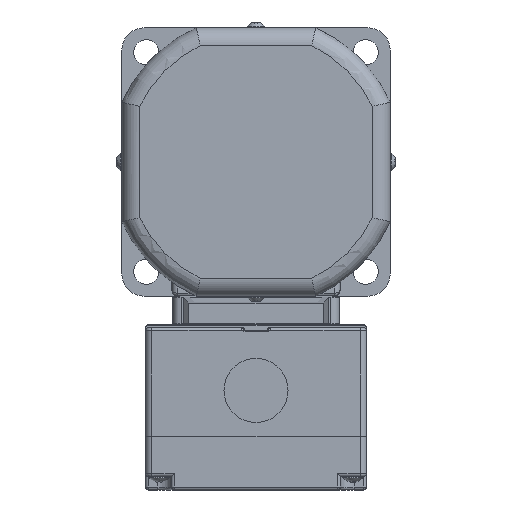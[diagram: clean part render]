
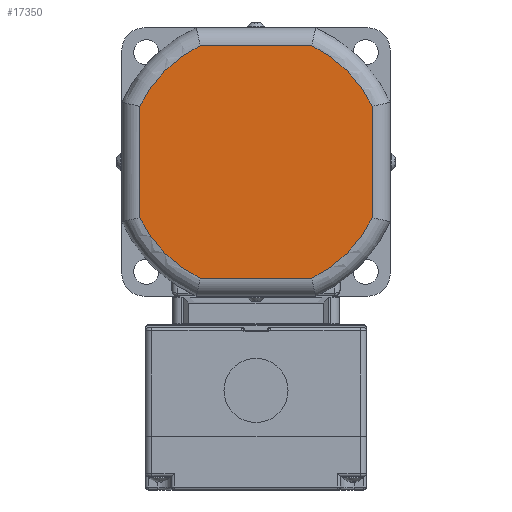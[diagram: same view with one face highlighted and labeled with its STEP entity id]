
A CAD part, left-side view. The second image highlights one B-rep face of the part: STEP entity #17350.
In plain terms, the highlighted planar face has unit normal (-1, 0, 0).
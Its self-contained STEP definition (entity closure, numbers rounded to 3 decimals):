
#1531=CIRCLE('',#18930,43.25);
#1532=CIRCLE('',#18931,43.25);
#1533=CIRCLE('',#18932,43.25);
#1534=CIRCLE('',#18933,43.25);
#2440=FACE_OUTER_BOUND('',#3505,.T.);
#3505=EDGE_LOOP('',(#14604,#14605,#14606,#14607,#14608,#14609,#14610,#14611));
#4952=LINE('',#30715,#6337);
#4953=LINE('',#30719,#6338);
#4954=LINE('',#30723,#6339);
#4955=LINE('',#30727,#6340);
#6337=VECTOR('',#23297,37.393);
#6338=VECTOR('',#23300,37.393);
#6339=VECTOR('',#23303,37.393);
#6340=VECTOR('',#23306,37.393);
#7861=VERTEX_POINT('',#30713);
#7862=VERTEX_POINT('',#30714);
#7863=VERTEX_POINT('',#30716);
#7864=VERTEX_POINT('',#30718);
#7865=VERTEX_POINT('',#30720);
#7866=VERTEX_POINT('',#30722);
#7867=VERTEX_POINT('',#30724);
#7868=VERTEX_POINT('',#30726);
#10151=EDGE_CURVE('',#7861,#7862,#4952,.T.);
#10152=EDGE_CURVE('',#7863,#7861,#1531,.T.);
#10153=EDGE_CURVE('',#7864,#7863,#4953,.T.);
#10154=EDGE_CURVE('',#7865,#7864,#1532,.T.);
#10155=EDGE_CURVE('',#7866,#7865,#4954,.T.);
#10156=EDGE_CURVE('',#7867,#7866,#1533,.T.);
#10157=EDGE_CURVE('',#7868,#7867,#4955,.T.);
#10158=EDGE_CURVE('',#7862,#7868,#1534,.T.);
#14604=ORIENTED_EDGE('',*,*,#10151,.F.);
#14605=ORIENTED_EDGE('',*,*,#10152,.F.);
#14606=ORIENTED_EDGE('',*,*,#10153,.F.);
#14607=ORIENTED_EDGE('',*,*,#10154,.F.);
#14608=ORIENTED_EDGE('',*,*,#10155,.F.);
#14609=ORIENTED_EDGE('',*,*,#10156,.F.);
#14610=ORIENTED_EDGE('',*,*,#10157,.F.);
#14611=ORIENTED_EDGE('',*,*,#10158,.F.);
#15552=PLANE('',#18929);
#17350=ADVANCED_FACE('',(#2440),#15552,.F.);
#18929=AXIS2_PLACEMENT_3D('',#30712,#23295,#23296);
#18930=AXIS2_PLACEMENT_3D('',#30717,#23298,#23299);
#18931=AXIS2_PLACEMENT_3D('',#30721,#23301,#23302);
#18932=AXIS2_PLACEMENT_3D('',#30725,#23304,#23305);
#18933=AXIS2_PLACEMENT_3D('',#30728,#23307,#23308);
#23295=DIRECTION('center_axis',(1.,0.,0.));
#23296=DIRECTION('ref_axis',(0.,0.,-1.));
#23297=DIRECTION('',(0.,0.,1.));
#23298=DIRECTION('center_axis',(1.,0.,0.));
#23299=DIRECTION('ref_axis',(0.,0.707,-0.707));
#23300=DIRECTION('',(0.,1.,0.));
#23301=DIRECTION('center_axis',(1.,0.,0.));
#23302=DIRECTION('ref_axis',(0.,-0.707,-0.707));
#23303=DIRECTION('',(0.,0.,-1.));
#23304=DIRECTION('center_axis',(1.,0.,0.));
#23305=DIRECTION('ref_axis',(0.,-0.707,0.707));
#23306=DIRECTION('',(0.,-1.,0.));
#23307=DIRECTION('center_axis',(1.,0.,0.));
#23308=DIRECTION('ref_axis',(0.,0.707,0.707));
#30712=CARTESIAN_POINT('Origin',(-17.8,0.,
0.));
#30713=CARTESIAN_POINT('',(-17.8,39.,-18.697));
#30714=CARTESIAN_POINT('',(-17.8,39.,18.697));
#30715=CARTESIAN_POINT('',(-17.8,39.,-18.697));
#30716=CARTESIAN_POINT('',(-17.8,18.697,-39.));
#30717=CARTESIAN_POINT('Origin',(-17.8,0.,
0.));
#30718=CARTESIAN_POINT('',(-17.8,-18.697,-39.));
#30719=CARTESIAN_POINT('',(-17.8,-18.697,-39.));
#30720=CARTESIAN_POINT('',(-17.8,-39.,-18.697));
#30721=CARTESIAN_POINT('Origin',(-17.8,0.,
0.));
#30722=CARTESIAN_POINT('',(-17.8,-39.,18.697));
#30723=CARTESIAN_POINT('',(-17.8,-39.,18.697));
#30724=CARTESIAN_POINT('',(-17.8,-18.697,39.));
#30725=CARTESIAN_POINT('Origin',(-17.8,0.,
0.));
#30726=CARTESIAN_POINT('',(-17.8,18.697,39.));
#30727=CARTESIAN_POINT('',(-17.8,18.697,39.));
#30728=CARTESIAN_POINT('Origin',(-17.8,0.,
0.));
